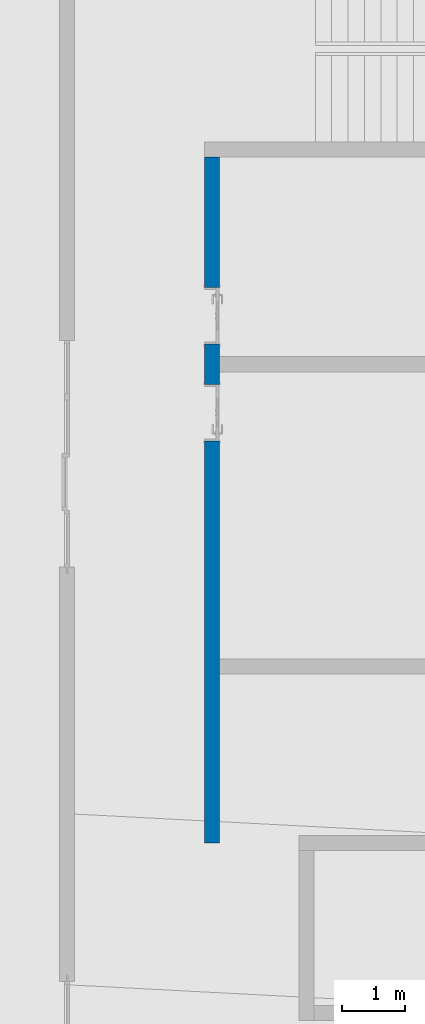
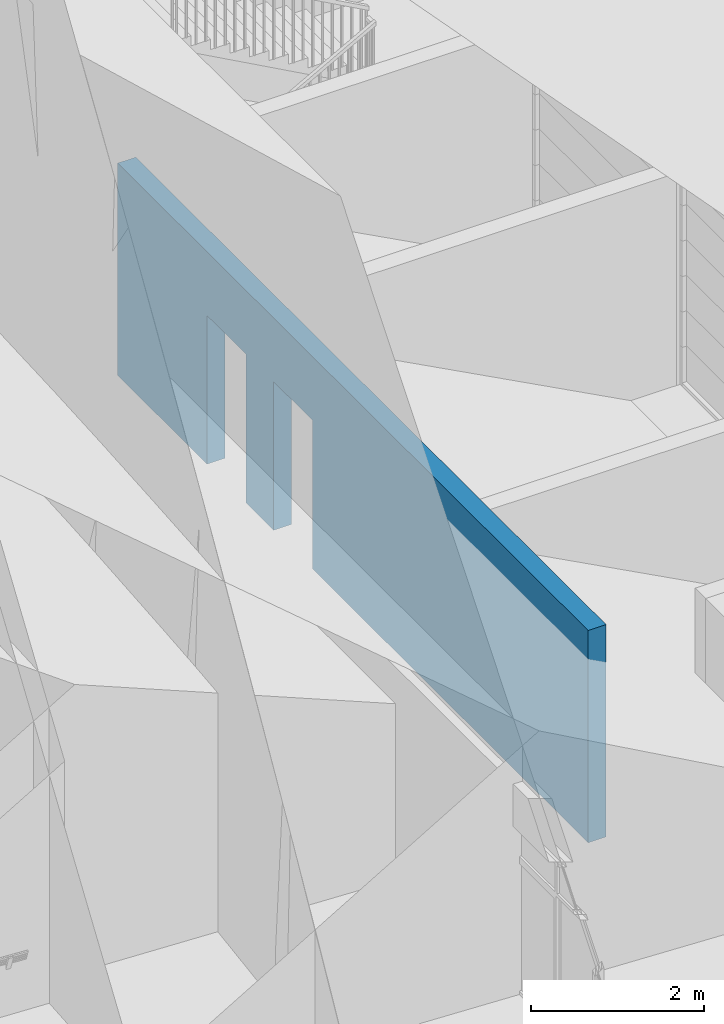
# One storey, part 55 of 82: 1 wall, 2 openings.
"""IFC2X3 building model written with IfcOpenShell, lengths in millimetres."""

from ifc_helpers import new_model, entity, si_unit, converted_unit, derived_unit, direction, frame, frame_2d, origin, place, context, subcontext, project, spatial, rectangle, extrude, material, layer, layer_set, layer_usage, type_object, element, save


model = new_model("IFC2X3")

# Units and contexts
model_context = context("Model", 3, precision=0.01, world=origin(), true_north=direction((6.12303176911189e-17, 1.0)))
body_context = subcontext(model_context, "Body", "Model", "MODEL_VIEW")
ifc_project = project(units=[si_unit("LENGTHUNIT", "METRE", prefix="MILLI"), si_unit("AREAUNIT", "SQUARE_METRE"), si_unit("VOLUMEUNIT", "CUBIC_METRE"), converted_unit("PLANEANGLEUNIT", "DEGREE", entity("IfcRatioMeasure", 0.0174532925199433), si_unit("PLANEANGLEUNIT", "RADIAN"), dimensions=[0, 0, 0, 0, 0, 0, 0]), si_unit("MASSUNIT", "GRAM", prefix="KILO"), derived_unit("MASSDENSITYUNIT", [(si_unit("MASSUNIT", "GRAM", prefix="KILO"), 1), (si_unit("LENGTHUNIT", "METRE"), -3)]), si_unit("TIMEUNIT", "SECOND"), si_unit("FREQUENCYUNIT", "HERTZ"), si_unit("THERMODYNAMICTEMPERATUREUNIT", "DEGREE_CELSIUS"), derived_unit("THERMALTRANSMITTANCEUNIT", [(si_unit("MASSUNIT", "GRAM", prefix="KILO"), 1), (si_unit("THERMODYNAMICTEMPERATUREUNIT", "KELVIN"), -1), (si_unit("TIMEUNIT", "SECOND"), -3)]), derived_unit("VOLUMETRICFLOWRATEUNIT", [(si_unit("LENGTHUNIT", "METRE"), 3), (si_unit("TIMEUNIT", "SECOND"), -1)]), si_unit("ELECTRICCURRENTUNIT", "AMPERE"), si_unit("ELECTRICVOLTAGEUNIT", "VOLT"), si_unit("POWERUNIT", "WATT"), si_unit("FORCEUNIT", "NEWTON", prefix="KILO"), si_unit("ILLUMINANCEUNIT", "LUX"), si_unit("LUMINOUSFLUXUNIT", "LUMEN"), si_unit("LUMINOUSINTENSITYUNIT", "CANDELA"), derived_unit("USERDEFINED", [(si_unit("MASSUNIT", "GRAM", prefix="KILO"), -1), (si_unit("LENGTHUNIT", "METRE"), -2), (si_unit("TIMEUNIT", "SECOND"), 3), (si_unit("LUMINOUSFLUXUNIT", "LUMEN"), 1)]), derived_unit("LINEARVELOCITYUNIT", [(si_unit("LENGTHUNIT", "METRE"), 1), (si_unit("TIMEUNIT", "SECOND"), -1)]), si_unit("PRESSUREUNIT", "PASCAL"), derived_unit("USERDEFINED", [(si_unit("LENGTHUNIT", "METRE"), -2), (si_unit("MASSUNIT", "GRAM", prefix="KILO"), 1), (si_unit("TIMEUNIT", "SECOND"), -2)])], contexts=[model_context])

# Site, building, storey
site_placement = place(None, origin())
site = spatial("IfcSite", under=ifc_project, at=site_placement, Name="表面", CompositionType="ELEMENT")
building_placement = place(site_placement, origin())
building = spatial("IfcBuilding", under=site, at=building_placement, CompositionType="ELEMENT")
storey_placement = place(building_placement, origin())
storey = spatial("IfcBuildingStorey", under=building, at=storey_placement, Name="1F", CompositionType="ELEMENT", Elevation=0.0)

# Wall, openings
ifc_material_1 = material(Name="白色涂料")
ifc_layer_1 = layer(ifc_material_1, 10.0)
ifc_material_2 = material(Name="默认墙")
ifc_layer_2 = layer(ifc_material_2, 220.0)
ifc_layer_3 = layer(ifc_material_1, 10.0)
ifc_layer_set = layer_set([ifc_layer_1, ifc_layer_2, ifc_layer_3], Name="基本墙:粉刷墙240")
ifc_layer_usage = layer_usage(ifc_layer_set, "AXIS2", "NEGATIVE", 120.0)
wall_type = type_object("IfcWallType", Name="基本墙:粉刷墙240", PredefinedType="STANDARD", material=ifc_layer_set)
wall_placement = place(storey_placement, frame((-12130.2499126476, -8827.84591297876, 0.0), z_axis=(0.0, 0.0, 1.0), x_axis=(0.0, -1.0, 0.0)))
wall = element("IfcWallStandardCase", 1, at=wall_placement, inside=storey, type_object=wall_type, material=ifc_layer_usage, Name="基本墙:粉刷墙240", ObjectType="基本墙:粉刷墙240", context=body_context, shape_type="SweptSolid", body=[
    extrude(rectangle(XDim=10889.0225136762, YDim=240.000000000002, at=frame_2d((5444.51125683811, -1.06581410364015e-13), x_axis=(-1.0, 0.0))), origin(), (0.0, 0.0, 1.0), 3000.00000000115),
])
opening_1_placement = place(wall_placement, frame((2069.02251367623, -120.0, 0.0)))
element("IfcOpeningElement", 2, at=opening_1_placement, cuts=wall, Name="装饰木门:M0921:1", ObjectType="Opening", context=body_context, shape_type="SweptSolid", body=[
    extrude(rectangle(XDim=2099.99999999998, YDim=900.0, at=frame_2d((1049.99999999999, 450.0), x_axis=(1.0, 0.0))), frame((0.0, 0.0, 0.0), z_axis=(0.0, 1.0, 0.0), x_axis=(0.0, 0.0, 1.0)), (0.0, 0.0, 1.0), 240.0),
])
opening_2_placement = place(wall_placement, frame((3609.02251367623, -120.0, 0.0)))
element("IfcOpeningElement", 3, at=opening_2_placement, cuts=wall, Name="装饰木门:M0921:1", ObjectType="Opening", context=body_context, shape_type="SweptSolid", body=[
    extrude(rectangle(XDim=2099.99999999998, YDim=900.0, at=frame_2d((1049.99999999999, 450.0), x_axis=(1.0, 0.0))), frame((0.0, 0.0, 0.0), z_axis=(0.0, 1.0, 0.0), x_axis=(0.0, 0.0, 1.0)), (0.0, 0.0, 1.0), 240.0),
])

save(model, "model.ifc")
